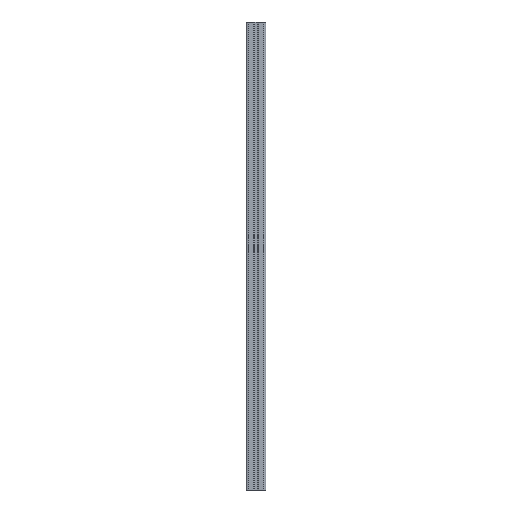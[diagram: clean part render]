
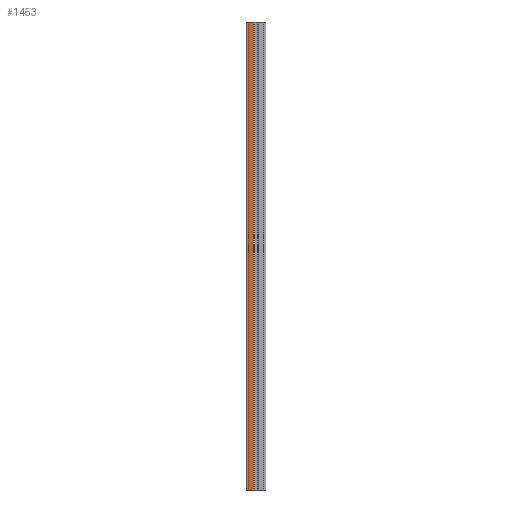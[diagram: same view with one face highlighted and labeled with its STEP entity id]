
A CAD part, front view. The second image highlights one B-rep face of the part: STEP entity #1453.
In plain terms, the highlighted planar face has unit normal (0, -1, 0).
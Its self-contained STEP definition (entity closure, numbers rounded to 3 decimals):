
#1453=ADVANCED_FACE('',(#4285),#4286,.T.);
#1681=EDGE_CURVE('',#2075,#2849,#4533,.T.);
#1969=EDGE_CURVE('',#2849,#3403,#4846,.T.);
#2075=VERTEX_POINT('',#4958);
#2483=VERTEX_POINT('',#5408);
#2849=VERTEX_POINT('',#5798);
#3403=VERTEX_POINT('',#6401);
#3425=EDGE_CURVE('',#2483,#3403,#6423,.T.);
#4093=EDGE_CURVE('',#2483,#2075,#7168,.T.);
#4285=FACE_OUTER_BOUND('',#7369,.T.);
#4286=PLANE('',#7370);
#4533=LINE('',#7705,#7706);
#4846=LINE('',#8127,#8128);
#4958=CARTESIAN_POINT('',(14.5,0.0,0.0));
#5408=CARTESIAN_POINT('',(4.0,0.0,0.0));
#5798=CARTESIAN_POINT('',(14.5,0.0,940.0));
#6401=CARTESIAN_POINT('',(4.0,0.0,940.0));
#6423=LINE('',#10302,#10303);
#7168=LINE('',#11304,#11305);
#7369=EDGE_LOOP('',(#11549,#11550,#11551,#11552));
#7370=AXIS2_PLACEMENT_3D('',#11553,#11554,#11555);
#7705=CARTESIAN_POINT('',(14.5,0.0,0.0));
#7706=VECTOR('',#11809,1.0);
#8127=CARTESIAN_POINT('',(4.0,0.0,940.0));
#8128=VECTOR('',#12126,1.0);
#10302=CARTESIAN_POINT('',(4.0,0.0,0.0));
#10303=VECTOR('',#13778,1.0);
#11304=CARTESIAN_POINT('',(4.0,0.0,0.0));
#11305=VECTOR('',#15000,1.0);
#11549=ORIENTED_EDGE('',*,*,#1681,.T.);
#11550=ORIENTED_EDGE('',*,*,#1969,.T.);
#11551=ORIENTED_EDGE('',*,*,#3425,.F.);
#11552=ORIENTED_EDGE('',*,*,#4093,.T.);
#11553=CARTESIAN_POINT('',(36.0,0.0,0.0));
#11554=DIRECTION('',(0.0,-1.0,0.0));
#11555=DIRECTION('',(1.0,0.0,0.0));
#11809=DIRECTION('',(0.0,0.0,1.0));
#12126=DIRECTION('',(-1.0,-0.0,-0.0));
#13778=DIRECTION('',(0.0,0.0,1.0));
#15000=DIRECTION('',(1.0,0.0,0.0));
